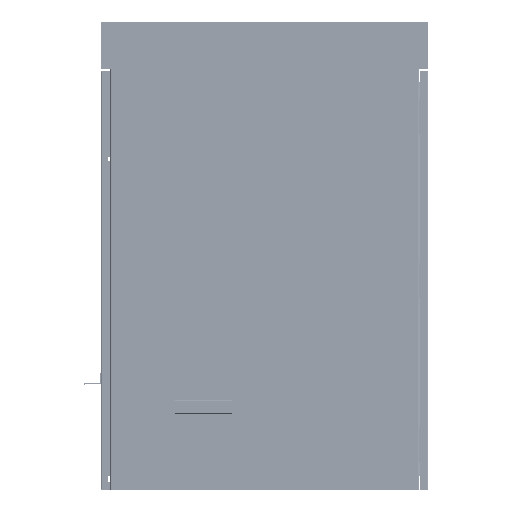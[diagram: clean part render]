
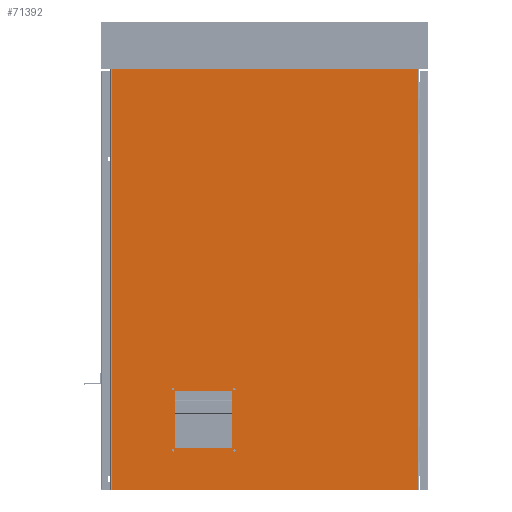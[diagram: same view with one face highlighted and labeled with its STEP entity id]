
A CAD part, left-side view. The second image highlights one B-rep face of the part: STEP entity #71392.
In plain terms, the highlighted planar face has unit normal (-1, 0, 0) as drawn and (0, 0, -1) by its records, which use the part's own axes.
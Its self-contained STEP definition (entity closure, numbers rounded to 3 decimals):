
#90 = EDGE_CURVE ( 'NONE', #17181, #29177, #14490, .T. ) ;
#98 = DIRECTION ( 'NONE',  ( 0., 0., -1. ) ) ;
#1067 = VERTEX_POINT ( 'NONE', #11355 ) ;
#1212 = CARTESIAN_POINT ( 'NONE',  ( 195.5, -365.5, 0. ) ) ;
#1667 = CARTESIAN_POINT ( 'NONE',  ( 327., -450., 0. ) ) ;
#2111 = EDGE_LOOP ( 'NONE', ( #69561, #68442 ) ) ;
#2153 = DIRECTION ( 'NONE',  ( -1., 0., 0. ) ) ;
#2799 = EDGE_CURVE ( 'NONE', #78942, #66348, #17126, .T. ) ;
#3706 = CARTESIAN_POINT ( 'NONE',  ( 69., -239., 0. ) ) ;
#6557 = ORIENTED_EDGE ( 'NONE', *, *, #43740, .F. ) ;
#6759 = EDGE_CURVE ( 'NONE', #29177, #34247, #13005, .T. ) ;
#7029 = DIRECTION ( 'NONE',  ( 0., 0., -1. ) ) ;
#7746 = VERTEX_POINT ( 'NONE', #78894 ) ;
#7886 = DIRECTION ( 'NONE',  ( 0., 0., -1. ) ) ;
#8171 = DIRECTION ( 'NONE',  ( 0., 0., -1. ) ) ;
#8421 = EDGE_CURVE ( 'NONE', #50840, #62448, #40242, .T. ) ;
#8427 = CARTESIAN_POINT ( 'NONE',  ( 61.9, -365.5, 0. ) ) ;
#8461 = VERTEX_POINT ( 'NONE', #73624 ) ;
#10273 = LINE ( 'NONE', #10480, #30601 ) ;
#10480 = CARTESIAN_POINT ( 'NONE',  ( -328., -450., 0. ) ) ;
#11355 = CARTESIAN_POINT ( 'NONE',  ( 198.1, -234.5, 0. ) ) ;
#11467 = CARTESIAN_POINT ( 'NONE',  ( 64.5, -234.5, 0. ) ) ;
#12757 = VECTOR ( 'NONE', #73342, 1000. ) ;
#13005 = LINE ( 'NONE', #53829, #77175 ) ;
#13009 = FACE_BOUND ( 'NONE', #83614, .T. ) ;
#13446 = EDGE_CURVE ( 'NONE', #1067, #50254, #52794, .T. ) ;
#13575 = DIRECTION ( 'NONE',  ( -1., 0., 0. ) ) ;
#14279 = EDGE_CURVE ( 'NONE', #7746, #64333, #19114, .T. ) ;
#14490 = LINE ( 'NONE', #48929, #72500 ) ;
#14736 = DIRECTION ( 'NONE',  ( 0., 0., -1. ) ) ;
#15179 = AXIS2_PLACEMENT_3D ( 'NONE', #60718, #35371, #27977 ) ;
#16416 = EDGE_LOOP ( 'NONE', ( #48181, #79517 ) ) ;
#17126 = CIRCLE ( 'NONE', #84340, 2.6 ) ;
#17181 = VERTEX_POINT ( 'NONE', #59524 ) ;
#17852 = CIRCLE ( 'NONE', #30660, 2.6 ) ;
#19114 = CIRCLE ( 'NONE', #40781, 2.6 ) ;
#19440 = CARTESIAN_POINT ( 'NONE',  ( -328., -450., 0. ) ) ;
#19697 = AXIS2_PLACEMENT_3D ( 'NONE', #64317, #46050, #77666 ) ;
#20023 = CARTESIAN_POINT ( 'NONE',  ( 69., -239., 0. ) ) ;
#20679 = CARTESIAN_POINT ( 'NONE',  ( 195.5, -234.5, 0. ) ) ;
#21511 = CARTESIAN_POINT ( 'NONE',  ( 64.5, -234.5, 0. ) ) ;
#23803 = DIRECTION ( 'NONE',  ( 1., 0., 0. ) ) ;
#23897 = DIRECTION ( 'NONE',  ( -1., 0., 0. ) ) ;
#24062 = EDGE_CURVE ( 'NONE', #34247, #56447, #32679, .T. ) ;
#25832 = ORIENTED_EDGE ( 'NONE', *, *, #24062, .F. ) ;
#26404 = CARTESIAN_POINT ( 'NONE',  ( 69., -361., 0. ) ) ;
#27643 = VECTOR ( 'NONE', #78338, 1000. ) ;
#27923 = CARTESIAN_POINT ( 'NONE',  ( 327., 450., 0. ) ) ;
#27977 = DIRECTION ( 'NONE',  ( -1., 0., 0. ) ) ;
#28312 = EDGE_CURVE ( 'NONE', #56447, #17181, #76557, .T. ) ;
#28631 = DIRECTION ( 'NONE',  ( -1., 0., 0. ) ) ;
#28801 = EDGE_CURVE ( 'NONE', #62448, #55287, #73437, .T. ) ;
#29177 = VERTEX_POINT ( 'NONE', #26404 ) ;
#30601 = VECTOR ( 'NONE', #23803, 1000. ) ;
#30660 = AXIS2_PLACEMENT_3D ( 'NONE', #54225, #14736, #28631 ) ;
#30749 = CIRCLE ( 'NONE', #70070, 2.6 ) ;
#31248 = VERTEX_POINT ( 'NONE', #1667 ) ;
#32655 = VECTOR ( 'NONE', #48641, 1000. ) ;
#32679 = LINE ( 'NONE', #20023, #27643 ) ;
#33318 = DIRECTION ( 'NONE',  ( -1., 0., 0. ) ) ;
#33554 = CARTESIAN_POINT ( 'NONE',  ( 61.9, -234.5, 0. ) ) ;
#33896 = DIRECTION ( 'NONE',  ( 0., 1., 0. ) ) ;
#33985 = EDGE_LOOP ( 'NONE', ( #82893, #75721 ) ) ;
#34247 = VERTEX_POINT ( 'NONE', #3706 ) ;
#35371 = DIRECTION ( 'NONE',  ( 0., 0., -1. ) ) ;
#36632 = ORIENTED_EDGE ( 'NONE', *, *, #46416, .F. ) ;
#39034 = PLANE ( 'NONE',  #84298 ) ;
#39177 = ORIENTED_EDGE ( 'NONE', *, *, #6759, .F. ) ;
#40242 = LINE ( 'NONE', #54249, #12757 ) ;
#40440 = DIRECTION ( 'NONE',  ( 0., 0., -1. ) ) ;
#40781 = AXIS2_PLACEMENT_3D ( 'NONE', #21511, #8171, #53607 ) ;
#41565 = DIRECTION ( 'NONE',  ( 1., 0., 0. ) ) ;
#41977 = AXIS2_PLACEMENT_3D ( 'NONE', #11467, #70593, #83153 ) ;
#43502 = FACE_BOUND ( 'NONE', #16416, .T. ) ;
#43740 = EDGE_CURVE ( 'NONE', #65241, #8461, #17852, .T. ) ;
#43788 = CARTESIAN_POINT ( 'NONE',  ( 192.9, -365.5, 0. ) ) ;
#44267 = CARTESIAN_POINT ( 'NONE',  ( 327., -450., 0. ) ) ;
#45548 = FACE_BOUND ( 'NONE', #53832, .T. ) ;
#46050 = DIRECTION ( 'NONE',  ( 0., 0., -1. ) ) ;
#46132 = CARTESIAN_POINT ( 'NONE',  ( 191., -361., 0. ) ) ;
#46416 = EDGE_CURVE ( 'NONE', #8461, #65241, #30749, .T. ) ;
#47876 = ORIENTED_EDGE ( 'NONE', *, *, #90, .F. ) ;
#48181 = ORIENTED_EDGE ( 'NONE', *, *, #67829, .F. ) ;
#48641 = DIRECTION ( 'NONE',  ( 0., -1., 0. ) ) ;
#48929 = CARTESIAN_POINT ( 'NONE',  ( 69., -361., 0. ) ) ;
#49007 = VECTOR ( 'NONE', #67457, 1000. ) ;
#49631 = FACE_OUTER_BOUND ( 'NONE', #64328, .T. ) ;
#50254 = VERTEX_POINT ( 'NONE', #81843 ) ;
#50840 = VERTEX_POINT ( 'NONE', #27923 ) ;
#51809 = ORIENTED_EDGE ( 'NONE', *, *, #83573, .F. ) ;
#52794 = CIRCLE ( 'NONE', #15179, 2.6 ) ;
#53536 = AXIS2_PLACEMENT_3D ( 'NONE', #20679, #7886, #2153 ) ;
#53607 = DIRECTION ( 'NONE',  ( -1., 0., 0. ) ) ;
#53829 = CARTESIAN_POINT ( 'NONE',  ( 69., -361., 0. ) ) ;
#53832 = EDGE_LOOP ( 'NONE', ( #6557, #36632 ) ) ;
#54225 = CARTESIAN_POINT ( 'NONE',  ( 195.5, -365.5, 0. ) ) ;
#54249 = CARTESIAN_POINT ( 'NONE',  ( -328., 450., 0. ) ) ;
#55287 = VERTEX_POINT ( 'NONE', #66943 ) ;
#55998 = CARTESIAN_POINT ( 'NONE',  ( -327., 450., 0. ) ) ;
#56447 = VERTEX_POINT ( 'NONE', #57512 ) ;
#57512 = CARTESIAN_POINT ( 'NONE',  ( 191., -239., 0. ) ) ;
#57568 = EDGE_CURVE ( 'NONE', #31248, #50840, #68138, .T. ) ;
#59097 = ORIENTED_EDGE ( 'NONE', *, *, #8421, .F. ) ;
#59524 = CARTESIAN_POINT ( 'NONE',  ( 191., -361., 0. ) ) ;
#59857 = FACE_BOUND ( 'NONE', #2111, .T. ) ;
#60718 = CARTESIAN_POINT ( 'NONE',  ( 195.5, -234.5, 0. ) ) ;
#61028 = VECTOR ( 'NONE', #77022, 1000. ) ;
#61854 = ORIENTED_EDGE ( 'NONE', *, *, #28801, .F. ) ;
#62448 = VERTEX_POINT ( 'NONE', #55998 ) ;
#63295 = CARTESIAN_POINT ( 'NONE',  ( 67.1, -365.5, 0. ) ) ;
#63340 = CIRCLE ( 'NONE', #41977, 2.6 ) ;
#64317 = CARTESIAN_POINT ( 'NONE',  ( 64.5, -365.5, 0. ) ) ;
#64328 = EDGE_LOOP ( 'NONE', ( #59097, #80762, #51809, #61854 ) ) ;
#64333 = VERTEX_POINT ( 'NONE', #33554 ) ;
#65241 = VERTEX_POINT ( 'NONE', #43788 ) ;
#66348 = VERTEX_POINT ( 'NONE', #8427 ) ;
#66943 = CARTESIAN_POINT ( 'NONE',  ( -327., -450., 0. ) ) ;
#66952 = FACE_BOUND ( 'NONE', #33985, .T. ) ;
#67457 = DIRECTION ( 'NONE',  ( 0., -1., 0. ) ) ;
#67829 = EDGE_CURVE ( 'NONE', #64333, #7746, #63340, .T. ) ;
#68138 = LINE ( 'NONE', #44267, #61028 ) ;
#68442 = ORIENTED_EDGE ( 'NONE', *, *, #13446, .F. ) ;
#69561 = ORIENTED_EDGE ( 'NONE', *, *, #70797, .F. ) ;
#70070 = AXIS2_PLACEMENT_3D ( 'NONE', #1212, #40440, #33318 ) ;
#70593 = DIRECTION ( 'NONE',  ( 0., 0., -1. ) ) ;
#70797 = EDGE_CURVE ( 'NONE', #50254, #1067, #79293, .T. ) ;
#71392 = ADVANCED_FACE ( 'NONE', ( #43502, #59857, #45548, #66952, #13009, #49631 ), #39034, .T. ) ;
#72427 = CARTESIAN_POINT ( 'NONE',  ( 64.5, -365.5, 0. ) ) ;
#72500 = VECTOR ( 'NONE', #23897, 1000. ) ;
#73342 = DIRECTION ( 'NONE',  ( -1., 0., 0. ) ) ;
#73437 = LINE ( 'NONE', #81437, #32655 ) ;
#73624 = CARTESIAN_POINT ( 'NONE',  ( 198.1, -365.5, 0. ) ) ;
#75721 = ORIENTED_EDGE ( 'NONE', *, *, #2799, .F. ) ;
#76557 = LINE ( 'NONE', #46132, #49007 ) ;
#77022 = DIRECTION ( 'NONE',  ( 0., 1., 0. ) ) ;
#77175 = VECTOR ( 'NONE', #33896, 1000. ) ;
#77666 = DIRECTION ( 'NONE',  ( -1., 0., 0. ) ) ;
#78062 = EDGE_CURVE ( 'NONE', #66348, #78942, #78166, .T. ) ;
#78095 = ORIENTED_EDGE ( 'NONE', *, *, #28312, .F. ) ;
#78166 = CIRCLE ( 'NONE', #19697, 2.6 ) ;
#78338 = DIRECTION ( 'NONE',  ( 1., 0., 0. ) ) ;
#78894 = CARTESIAN_POINT ( 'NONE',  ( 67.1, -234.5, 0. ) ) ;
#78942 = VERTEX_POINT ( 'NONE', #63295 ) ;
#79293 = CIRCLE ( 'NONE', #53536, 2.6 ) ;
#79517 = ORIENTED_EDGE ( 'NONE', *, *, #14279, .F. ) ;
#80762 = ORIENTED_EDGE ( 'NONE', *, *, #57568, .F. ) ;
#81437 = CARTESIAN_POINT ( 'NONE',  ( -327., 450., 0. ) ) ;
#81843 = CARTESIAN_POINT ( 'NONE',  ( 192.9, -234.5, 0. ) ) ;
#82893 = ORIENTED_EDGE ( 'NONE', *, *, #78062, .F. ) ;
#83153 = DIRECTION ( 'NONE',  ( -1., 0., 0. ) ) ;
#83573 = EDGE_CURVE ( 'NONE', #55287, #31248, #10273, .T. ) ;
#83614 = EDGE_LOOP ( 'NONE', ( #39177, #47876, #78095, #25832 ) ) ;
#84298 = AXIS2_PLACEMENT_3D ( 'NONE', #19440, #98, #41565 ) ;
#84340 = AXIS2_PLACEMENT_3D ( 'NONE', #72427, #7029, #13575 ) ;
